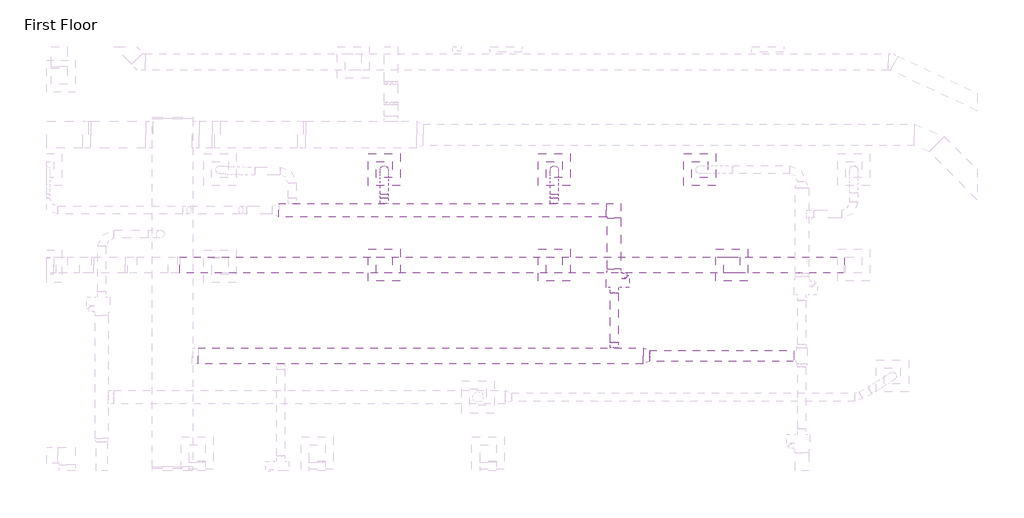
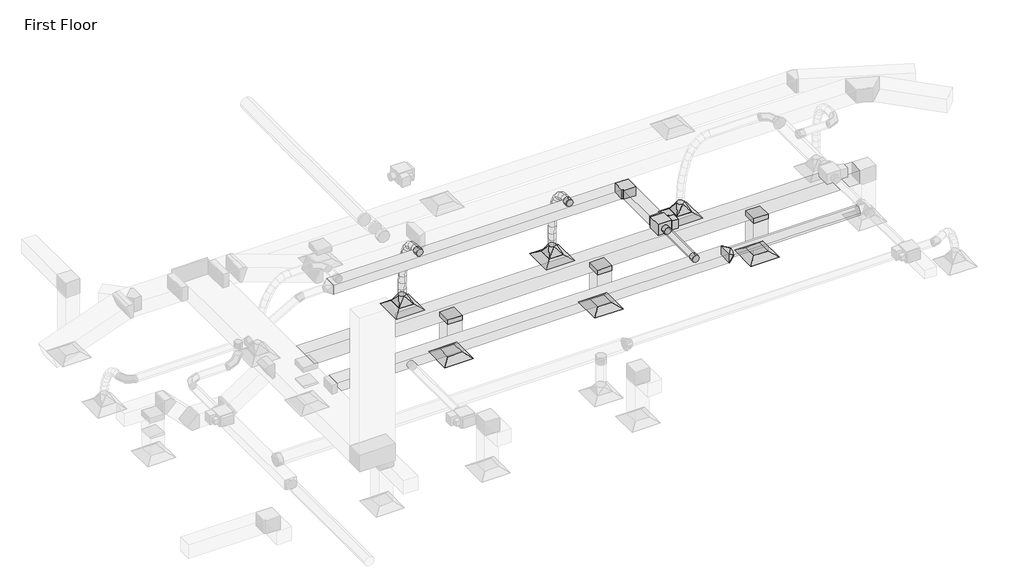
# One storey, part 49 of 61: 13 duct segments, 11 duct fittings, 6 air terminals, 1 proxy.
"""IFC4 building model written with IfcOpenShell, lengths in millimetres."""

from ifc_helpers import new_model, si_unit, point, frame, frame_2d, origin, place, context, project, spatial, polyline, circle_curve, ellipse_curve, trimmed, segment, composite_curve, outline, extrude, transform, mapped, element, save
from ifc_brep_helpers import plane_surface, cylinder_surface, advanced_brep
from components import m_exhaust_grill_er_600_x_600_face_300_x_300_connection_ff221211, m_vav_unit_single_duct_150_mm_ffdab17b, m_rectangular_elbow_mitered_standard_b734d3a4, m_rectangular_takeoff_standard_c00386d1, m_rectangular_to_round_transition_angle_45_degree_8f201c83, m_rectangular_to_round_transition_angle_45_degree_7e9c3f7e, m_round_takeoff_standard_d02f3bf7, m_round_takeoff_standard_2721f8a4

model = new_model("IFC4")

# Units and contexts
model_context = context("Model", 3, world=origin())
ifc_project = project(units=[si_unit("LENGTHUNIT", "METRE", prefix="MILLI")], contexts=[model_context])

# Site, building, storey
site = spatial("IfcSite", under=ifc_project)
building = spatial("IfcBuilding", under=site)
storey = spatial("IfcBuildingStorey", under=building, Name="First Floor", Elevation=0.0)

# Air terminals
placement = place(None, origin())
m_exhaust_grill_er_600_x_600_face_300_x_300_connection_shape = m_exhaust_grill_er_600_x_600_face_300_x_300_connection_ff221211(model_context)
element("IfcAirTerminal", 1, ObjectType="M_Return Register : RR-600 x 600 Face 300 x 300 Connection", at=placement, inside=storey, context=model_context, shape_type="MappedRepresentation", body=[
    mapped(m_exhaust_grill_er_600_x_600_face_300_x_300_connection_shape, transform((-31045.6775238, 41867.8999759, 2680.0), x_axis=(1.0, 0.0, 0.0), y_axis=(0.0, 1.0, 0.0), z_axis=(0.0, 0.0, 1.0))),
])
element("IfcAirTerminal", 2, ObjectType="M_Return Register : RR-600 x 600 Face 300 x 300 Connection", at=placement, inside=storey, context=model_context, shape_type="MappedRepresentation", body=[
    mapped(m_exhaust_grill_er_600_x_600_face_300_x_300_connection_shape, transform((-27873.190801, 41867.8999759, 2680.0), x_axis=(1.0, 0.0, 0.0), y_axis=(0.0, 1.0, 0.0), z_axis=(0.0, 0.0, 1.0))),
])
element("IfcAirTerminal", 3, ObjectType="M_Return Register : RR-600 x 600 Face 300 x 300 Connection", at=placement, inside=storey, context=model_context, shape_type="MappedRepresentation", body=[
    mapped(m_exhaust_grill_er_600_x_600_face_300_x_300_connection_shape, transform((-24565.7834444, 41867.8999759, 2680.0), x_axis=(1.0, 0.0, 0.0), y_axis=(0.0, 1.0, 0.0), z_axis=(0.0, 0.0, 1.0))),
])
element("IfcAirTerminal", 4, ObjectType="M_Supply Diffuser : SD-600 x 600 Face 300 x 300 Connection", at=placement, inside=storey, context=model_context, shape_type="MappedRepresentation", body=[
    mapped(m_exhaust_grill_er_600_x_600_face_300_x_300_connection_shape, transform((-25158.2437299, 43646.5953777, 2680.0), x_axis=(1.0, 0.0, 0.0), y_axis=(0.0, 1.0, 0.0), z_axis=(0.0, 0.0, 1.0))),
])
element("IfcAirTerminal", 5, ObjectType="M_Supply Diffuser : SD-600 x 600 Face 300 x 300 Connection", at=placement, inside=storey, context=model_context, shape_type="MappedRepresentation", body=[
    mapped(m_exhaust_grill_er_600_x_600_face_300_x_300_connection_shape, transform((-27873.190801, 43646.5953777, 2680.0), x_axis=(1.0, 0.0, 0.0), y_axis=(0.0, 1.0, 0.0), z_axis=(0.0, 0.0, 1.0))),
])
element("IfcAirTerminal", 6, ObjectType="M_Supply Diffuser : SD-600 x 600 Face 300 x 300 Connection", at=placement, inside=storey, context=model_context, shape_type="MappedRepresentation", body=[
    mapped(m_exhaust_grill_er_600_x_600_face_300_x_300_connection_shape, transform((-31045.6775238, 43646.5953777, 2680.0), x_axis=(1.0, 0.0, 0.0), y_axis=(0.0, 1.0, 0.0), z_axis=(0.0, 0.0, 1.0))),
])

# Proxy
m_vav_unit_single_duct_150_mm_shape = m_vav_unit_single_duct_150_mm_ffdab17b(model_context)
element("IfcBuildingElementProxy", 7, Name="M_VAV Unit - Single Duct : 150 mm", ObjectType="M_VAV Unit - Single Duct : 150 mm", at=placement, inside=storey, context=model_context, shape_type="MappedRepresentation", body=[
    mapped(m_vav_unit_single_duct_150_mm_shape, transform((-26756.73495, 41449.1406836, 4159.975), x_axis=(0.0, 1.0000000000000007, 0.0), y_axis=(-1.0000000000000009, 0.0, 0.0), z_axis=(0.0, 0.0, 1.0000000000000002))),
])

# Duct fittings
m_rectangular_elbow_mitered_standard_shape = m_rectangular_elbow_mitered_standard_b734d3a4(model_context)
element("IfcDuctFitting", 8, ObjectType="M_Rectangular Elbow - Mitered : Standard", at=placement, inside=storey, context=model_context, shape_type="MappedRepresentation", body=[
    mapped(m_rectangular_elbow_mitered_standard_shape, transform((-26756.73495, 42891.9406833, 4279.0), x_axis=(0.0, 0.9999999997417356, -2.272727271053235e-05), y_axis=(-1.0, 0.0, 0.0), z_axis=(0.0, 2.272727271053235e-05, 0.9999999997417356))),
])
m_rectangular_takeoff_standard_shape = m_rectangular_takeoff_standard_c00386d1(model_context)
element("IfcDuctFitting", 9, ObjectType="M_Rectangular Takeoff : Standard", at=placement, inside=storey, context=model_context, shape_type="MappedRepresentation", body=[
    mapped(m_rectangular_takeoff_standard_shape, transform((-24565.7834444, 41867.8999759, 3600.0), x_axis=(0.0, 0.0, -1.0), y_axis=(0.0, 1.0, 0.0), z_axis=(1.0, 0.0, 0.0))),
])
element("IfcDuctFitting", 10, ObjectType="M_Rectangular Takeoff : Standard", at=placement, inside=storey, context=model_context, shape_type="MappedRepresentation", body=[
    mapped(m_rectangular_takeoff_standard_shape, transform((-27873.190801, 41867.8999759, 3600.0), x_axis=(0.0, 0.0, -1.0), y_axis=(0.0, 1.0, 0.0), z_axis=(1.0, 0.0, 0.0))),
])
element("IfcDuctFitting", 11, ObjectType="M_Rectangular Takeoff : Standard", at=placement, inside=storey, context=model_context, shape_type="MappedRepresentation", body=[
    mapped(m_rectangular_takeoff_standard_shape, transform((-31045.6775238, 41867.8999759, 3600.0), x_axis=(0.0, 0.0, -1.0), y_axis=(0.0, 1.0, 0.0), z_axis=(1.0, 0.0, 0.0))),
])
m_rectangular_to_round_transition_angle_45_degree_shape = m_rectangular_to_round_transition_angle_45_degree_8f201c83(model_context)
element("IfcDuctFitting", 12, ObjectType="M_Rectangular to Round Transition - Angle : 45 Degree", at=placement, inside=storey, context=model_context, shape_type="MappedRepresentation", body=[
    mapped(m_rectangular_to_round_transition_angle_45_degree_shape, transform((-25158.2437299, 43646.5953777, 2781.6), x_axis=(0.0, 0.0, 1.0), y_axis=(1.0, 0.0, 0.0), z_axis=(0.0, 1.0, 0.0))),
])
element("IfcDuctFitting", 13, ObjectType="M_Rectangular to Round Transition - Angle : 45 Degree", at=placement, inside=storey, context=model_context, shape_type="MappedRepresentation", body=[
    mapped(m_rectangular_to_round_transition_angle_45_degree_shape, transform((-31045.6775238, 43646.5953777, 2781.6), x_axis=(0.0, 0.0, 1.0), y_axis=(1.0, 0.0, 0.0), z_axis=(0.0, 1.0, 0.0))),
])
element("IfcDuctFitting", 14, ObjectType="M_Rectangular to Round Transition - Angle : 45 Degree", at=placement, inside=storey, context=model_context, shape_type="MappedRepresentation", body=[
    mapped(m_rectangular_to_round_transition_angle_45_degree_shape, transform((-27873.190801, 43646.5953777, 2781.6), x_axis=(0.0, 0.0, 1.0), y_axis=(1.0, 0.0, 0.0), z_axis=(0.0, 1.0, 0.0))),
])
m_rectangular_to_round_transition_angle_45_degree_2_shape = m_rectangular_to_round_transition_angle_45_degree_7e9c3f7e(model_context)
element("IfcDuctFitting", 15, ObjectType="M_Rectangular to Round Transition - Angle : 45 Degree", at=placement, inside=storey, context=model_context, shape_type="MappedRepresentation", body=[
    mapped(m_rectangular_to_round_transition_angle_45_degree_2_shape, transform((-26216.1904063, 40172.9559427, 4269.5), x_axis=(1.0, 0.0, 0.0), y_axis=(0.0, 1.0, 0.0), z_axis=(0.0, 0.0, 1.0))),
])
m_round_takeoff_standard_shape = m_round_takeoff_standard_d02f3bf7(model_context)
element("IfcDuctFitting", 16, ObjectType="M_Round Takeoff : Standard", at=placement, inside=storey, context=model_context, shape_type="MappedRepresentation", body=[
    mapped(m_round_takeoff_standard_shape, transform((-31045.6775238, 43016.9406833, 4279.0), x_axis=(0.0, 1.0, 0.0), y_axis=(1.0, 0.0, 0.0), z_axis=(0.0, 0.0, -1.0))),
])
element("IfcDuctFitting", 17, ObjectType="M_Round Takeoff : Standard", at=placement, inside=storey, context=model_context, shape_type="MappedRepresentation", body=[
    mapped(m_round_takeoff_standard_shape, transform((-27873.190801, 43016.9406833, 4279.0), x_axis=(0.0, 1.0, 0.0), y_axis=(1.0, 0.0, 0.0), z_axis=(0.0, 0.0, -1.0))),
])
m_round_takeoff_standard_2_shape = m_round_takeoff_standard_2721f8a4(model_context)
element("IfcDuctFitting", 18, ObjectType="M_Round Takeoff : Standard", at=placement, inside=storey, context=model_context, shape_type="MappedRepresentation", body=[
    mapped(m_round_takeoff_standard_2_shape, transform((-26757.58495, 40322.9559427, 4269.5), x_axis=(0.0, 1.0, 0.0), y_axis=(1.0, 0.0, 0.0), z_axis=(0.0, 0.0, -1.0))),
])

# Duct segments
element("IfcDuctSegment", 19, ObjectType="Flex - Round", at=placement, inside=storey, context=model_context, shape_type="AdvancedBrep", body=[
    advanced_brep(
    [(-31120.6775238, 43191.9406833, 4279.0), (-31045.6775238, 43178.9924101, 4205.1261736), (-30970.6775238, 43191.9406833, 4279.0), (-31045.6775238, 43204.8889565, 4352.8738264), (-31120.6775238, 43307.1610372, 4258.8046928), (-31045.6775238, 43280.3523448, 4187.3602586), (-30970.6775238, 43307.1610372, 4258.8046928), (-31045.6775238, 43333.9697296, 4330.249127), (-31120.6775238, 43646.5953777, 2962.6660172), (-31045.6775238, 43721.5953451, 2962.7359465), (-30970.6775238, 43646.5953777, 2962.6660172), (-31045.6775238, 43571.5954103, 2962.5960879), (-31120.6775238, 43401.067368, 4201.9453767), (-31045.6775238, 43351.8129835, 4144.0915779), (-30970.6775238, 43401.067368, 4201.9453767), (-31045.6775238, 43450.3217525, 4259.7991755), (-31120.6775238, 43475.8384761, 4114.0119602), (-31045.6775238, 43413.0097324, 4072.1220786), (-30970.6775238, 43475.8384761, 4114.0119602), (-31045.6775238, 43538.6672197, 4155.9018417), (-31120.6775238, 43533.6531619, 4000.5943515), (-31045.6775238, 43464.1176047, 3971.8615206), (-30970.6775238, 43533.6531619, 4000.5943515), (-31045.6775238, 43603.1887191, 4029.3271824), (-31120.6775238, 43576.6902259, 3867.2824592), (-31045.6775238, 43504.0612132, 3848.1319363), (-30970.6775238, 43576.6902259, 3867.2824592), (-31045.6775238, 43649.3192386, 3886.4329821), (-31120.6775238, 43607.1284686, 3719.6661916), (-31045.6775238, 43533.098013, 3707.3122428), (-30970.6775238, 43607.1284686, 3719.6661916), (-31045.6775238, 43681.1589242, 3732.0201403), (-31120.6775238, 43627.1466904, 3563.335457), (-31045.6775238, 43552.4985972, 3555.8049008), (-30970.6775238, 43627.1466904, 3563.335457), (-31045.6775238, 43701.7947836, 3570.8660131), (-31120.6775238, 43638.9236918, 3403.8801639), (-31045.6775238, 43564.0242722, 3399.7524532), (-30970.6775238, 43638.9236918, 3403.8801639), (-31045.6775238, 43713.8231113, 3408.0078745), (-31120.6775238, 43644.6382731, 3246.8902206), (-31045.6775238, 43569.6550464, 3245.0648442), (-30970.6775238, 43644.6382731, 3246.8902206), (-31045.6775238, 43719.6214998, 3248.715597), (-31120.6775238, 43646.4692349, 3097.9555356), (-31045.6775238, 43571.4696648, 3097.4595752), (-30970.6775238, 43646.4692349, 3097.9555356), (-31045.6775238, 43721.4688051, 3098.451496)],
    [
        (0, 1, circle_curve(frame((-31045.6775238, 43191.9406833, 4279.0), z_axis=(0.0, -0.9849843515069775, 0.17264364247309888), x_axis=(-1.0, 0.0, 0.0)), 75.0)),
        (1, 2, circle_curve(frame((-31045.6775238, 43191.9406833, 4279.0), z_axis=(0.0, -0.9849843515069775, 0.17264364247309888), x_axis=(-1.0, 0.0, 0.0)), 75.0)),
        (2, 3, circle_curve(frame((-31045.6775238, 43191.9406833, 4279.0), z_axis=(0.0, -0.9849843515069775, 0.17264364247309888), x_axis=(-1.0, 0.0, 0.0)), 75.0)),
        (3, 0, circle_curve(frame((-31045.6775238, 43191.9406833, 4279.0), z_axis=(0.0, -0.9849843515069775, 0.17264364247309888), x_axis=(-1.0, 0.0, 0.0)), 75.0)),
        (0, 4),
        (4, 5, ellipse_curve(frame((-31045.6775238, 43307.1610372, 4258.8046928), z_axis=(0.0, -0.936255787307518, 0.351319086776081), x_axis=(0.0, -0.3513190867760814, -0.9362557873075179)), 76.3086703, 75.0)),
        (5, 1),
        (5, 6, ellipse_curve(frame((-31045.6775238, 43307.1610372, 4258.8046928), z_axis=(0.0, -0.936255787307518, 0.351319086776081), x_axis=(0.0, -0.3513190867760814, -0.9362557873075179)), 76.3086703, 75.0)),
        (6, 2),
        (6, 7, ellipse_curve(frame((-31045.6775238, 43307.1610372, 4258.8046928), z_axis=(0.0, -0.936255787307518, 0.351319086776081), x_axis=(0.0, -0.3513190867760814, -0.9362557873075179)), 76.3086703, 75.0)),
        (7, 3),
        (7, 4, ellipse_curve(frame((-31045.6775238, 43307.1610372, 4258.8046928), z_axis=(0.0, -0.936255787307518, 0.351319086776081), x_axis=(0.0, -0.3513190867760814, -0.9362557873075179)), 76.3086703, 75.0)),
        (8, 9, circle_curve(frame((-31045.6775238, 43646.5953777, 2962.6660172), z_axis=(0.0, 0.0009323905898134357, -0.9999995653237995), x_axis=(-1.0, 0.0, 0.0)), 75.0)),
        (9, 10, circle_curve(frame((-31045.6775238, 43646.5953777, 2962.6660172), z_axis=(0.0, 0.0009323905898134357, -0.9999995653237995), x_axis=(-1.0, 0.0, 0.0)), 75.0)),
        (10, 11, circle_curve(frame((-31045.6775238, 43646.5953777, 2962.6660172), z_axis=(0.0, 0.0009323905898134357, -0.9999995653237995), x_axis=(-1.0, 0.0, 0.0)), 75.0)),
        (11, 8, circle_curve(frame((-31045.6775238, 43646.5953777, 2962.6660172), z_axis=(0.0, 0.0009323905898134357, -0.9999995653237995), x_axis=(-1.0, 0.0, 0.0)), 75.0)),
        (4, 12),
        (12, 13, ellipse_curve(frame((-31045.6775238, 43401.067368, 4201.9453767), z_axis=(0.0, -0.7614282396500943, 0.6482492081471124), x_axis=(0.0, -0.648249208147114, -0.761428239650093)), 75.9806319, 75.0)),
        (13, 5),
        (13, 14, ellipse_curve(frame((-31045.6775238, 43401.067368, 4201.9453767), z_axis=(0.0, -0.7614282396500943, 0.6482492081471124), x_axis=(0.0, -0.648249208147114, -0.761428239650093)), 75.9806319, 75.0)),
        (14, 6),
        (14, 15, ellipse_curve(frame((-31045.6775238, 43401.067368, 4201.9453767), z_axis=(0.0, -0.7614282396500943, 0.6482492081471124), x_axis=(0.0, -0.648249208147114, -0.761428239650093)), 75.9806319, 75.0)),
        (15, 7),
        (15, 12, ellipse_curve(frame((-31045.6775238, 43401.067368, 4201.9453767), z_axis=(0.0, -0.7614282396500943, 0.6482492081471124), x_axis=(0.0, -0.648249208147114, -0.761428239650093)), 75.9806319, 75.0)),
        (12, 16),
        (16, 17, ellipse_curve(frame((-31045.6775238, 43475.8384761, 4114.0119602), z_axis=(0.0, -0.5547373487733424, 0.8320255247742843), x_axis=(0.0, -0.832025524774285, -0.5547373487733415)), 75.5130003, 75.0)),
        (17, 13),
        (17, 18, ellipse_curve(frame((-31045.6775238, 43475.8384761, 4114.0119602), z_axis=(0.0, -0.5547373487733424, 0.8320255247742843), x_axis=(0.0, -0.832025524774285, -0.5547373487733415)), 75.5130003, 75.0)),
        (18, 14),
        (18, 19, ellipse_curve(frame((-31045.6775238, 43475.8384761, 4114.0119602), z_axis=(0.0, -0.5547373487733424, 0.8320255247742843), x_axis=(0.0, -0.832025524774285, -0.5547373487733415)), 75.5130003, 75.0)),
        (19, 15),
        (19, 16, ellipse_curve(frame((-31045.6775238, 43475.8384761, 4114.0119602), z_axis=(0.0, -0.5547373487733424, 0.8320255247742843), x_axis=(0.0, -0.832025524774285, -0.5547373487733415)), 75.5130003, 75.0)),
        (16, 20),
        (20, 21, ellipse_curve(frame((-31045.6775238, 43533.6531619, 4000.5943515), z_axis=(0.0, -0.38189211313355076, 0.9242069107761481), x_axis=(0.0, -0.9242069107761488, -0.3818921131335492)), 75.238084, 75.0)),
        (21, 17),
        (21, 22, ellipse_curve(frame((-31045.6775238, 43533.6531619, 4000.5943515), z_axis=(0.0, -0.38189211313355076, 0.9242069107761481), x_axis=(0.0, -0.9242069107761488, -0.3818921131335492)), 75.238084, 75.0)),
        (22, 18),
        (22, 23, ellipse_curve(frame((-31045.6775238, 43533.6531619, 4000.5943515), z_axis=(0.0, -0.38189211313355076, 0.9242069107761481), x_axis=(0.0, -0.9242069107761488, -0.3818921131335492)), 75.238084, 75.0)),
        (23, 19),
        (23, 20, ellipse_curve(frame((-31045.6775238, 43533.6531619, 4000.5943515), z_axis=(0.0, -0.38189211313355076, 0.9242069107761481), x_axis=(0.0, -0.9242069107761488, -0.3818921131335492)), 75.238084, 75.0)),
        (20, 24),
        (24, 25, ellipse_curve(frame((-31045.6775238, 43576.6902259, 3867.2824592), z_axis=(0.0, -0.2549617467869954, 0.9669511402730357), x_axis=(0.0, -0.9669511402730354, -0.25496174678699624)), 75.1113574, 75.0)),
        (25, 21),
        (25, 26, ellipse_curve(frame((-31045.6775238, 43576.6902259, 3867.2824592), z_axis=(0.0, -0.2549617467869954, 0.9669511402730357), x_axis=(0.0, -0.9669511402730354, -0.25496174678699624)), 75.1113574, 75.0)),
        (26, 22),
        (26, 27, ellipse_curve(frame((-31045.6775238, 43576.6902259, 3867.2824592), z_axis=(0.0, -0.2549617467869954, 0.9669511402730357), x_axis=(0.0, -0.9669511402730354, -0.25496174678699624)), 75.1113574, 75.0)),
        (27, 23),
        (27, 24, ellipse_curve(frame((-31045.6775238, 43576.6902259, 3867.2824592), z_axis=(0.0, -0.2549617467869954, 0.9669511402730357), x_axis=(0.0, -0.9669511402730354, -0.25496174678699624)), 75.1113574, 75.0)),
        (24, 28),
        (28, 29, ellipse_curve(frame((-31045.6775238, 43607.1284686, 3719.6661916), z_axis=(0.0, -0.16460043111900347, 0.9863603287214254), x_axis=(0.0, -0.9863603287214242, -0.1646004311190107)), 75.0541698, 75.0)),
        (29, 25),
        (29, 30, ellipse_curve(frame((-31045.6775238, 43607.1284686, 3719.6661916), z_axis=(0.0, -0.16460043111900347, 0.9863603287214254), x_axis=(0.0, -0.9863603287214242, -0.1646004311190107)), 75.0541698, 75.0)),
        (30, 26),
        (30, 31, ellipse_curve(frame((-31045.6775238, 43607.1284686, 3719.6661916), z_axis=(0.0, -0.16460043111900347, 0.9863603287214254), x_axis=(0.0, -0.9863603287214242, -0.1646004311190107)), 75.0541698, 75.0)),
        (31, 27),
        (31, 28, ellipse_curve(frame((-31045.6775238, 43607.1284686, 3719.6661916), z_axis=(0.0, -0.16460043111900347, 0.9863603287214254), x_axis=(0.0, -0.9863603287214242, -0.1646004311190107)), 75.0541698, 75.0)),
        (28, 32),
        (32, 33, ellipse_curve(frame((-31045.6775238, 43627.1466904, 3563.335457), z_axis=(0.0, -0.10037131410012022, 0.9949500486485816), x_axis=(0.0, -0.9949500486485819, -0.10037131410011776)), 75.0269758, 75.0)),
        (33, 29),
        (33, 34, ellipse_curve(frame((-31045.6775238, 43627.1466904, 3563.335457), z_axis=(0.0, -0.10037131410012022, 0.9949500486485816), x_axis=(0.0, -0.9949500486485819, -0.10037131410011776)), 75.0269758, 75.0)),
        (34, 30),
        (34, 35, ellipse_curve(frame((-31045.6775238, 43627.1466904, 3563.335457), z_axis=(0.0, -0.10037131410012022, 0.9949500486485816), x_axis=(0.0, -0.9949500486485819, -0.10037131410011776)), 75.0269758, 75.0)),
        (35, 31),
        (35, 32, ellipse_curve(frame((-31045.6775238, 43627.1466904, 3563.335457), z_axis=(0.0, -0.10037131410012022, 0.9949500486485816), x_axis=(0.0, -0.9949500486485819, -0.10037131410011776)), 75.0269758, 75.0)),
        (32, 36),
        (36, 37, ellipse_curve(frame((-31045.6775238, 43638.9236918, 3403.8801639), z_axis=(0.0, -0.05502655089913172, 0.9984848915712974), x_axis=(-1.4123977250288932e-12, -0.9984848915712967, -0.05502655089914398)), 75.0130725, 75.0)),
        (37, 33),
        (37, 38, ellipse_curve(frame((-31045.6775238, 43638.9236918, 3403.8801639), z_axis=(0.0, -0.05502655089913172, 0.9984848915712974), x_axis=(-1.4123977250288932e-12, -0.9984848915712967, -0.05502655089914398)), 75.0130725, 75.0)),
        (38, 34),
        (38, 39, ellipse_curve(frame((-31045.6775238, 43638.9236918, 3403.8801639), z_axis=(0.0, -0.05502655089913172, 0.9984848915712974), x_axis=(-1.4123977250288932e-12, -0.9984848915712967, -0.05502655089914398)), 75.0130725, 75.0)),
        (39, 35),
        (39, 36, ellipse_curve(frame((-31045.6775238, 43638.9236918, 3403.8801639), z_axis=(0.0, -0.05502655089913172, 0.9984848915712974), x_axis=(-1.4123977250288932e-12, -0.9984848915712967, -0.05502655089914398)), 75.0130725, 75.0)),
        (36, 40),
        (40, 41, ellipse_curve(frame((-31045.6775238, 43644.6382731, 3246.8902206), z_axis=(0.0, -0.02433658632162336, 0.99970382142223), x_axis=(0.0, -0.9997038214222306, -0.024336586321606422)), 75.0054417, 75.0)),
        (41, 37),
        (41, 42, ellipse_curve(frame((-31045.6775238, 43644.6382731, 3246.8902206), z_axis=(0.0, -0.02433658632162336, 0.99970382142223), x_axis=(0.0, -0.9997038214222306, -0.024336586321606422)), 75.0054417, 75.0)),
        (42, 38),
        (42, 43, ellipse_curve(frame((-31045.6775238, 43644.6382731, 3246.8902206), z_axis=(0.0, -0.02433658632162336, 0.99970382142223), x_axis=(0.0, -0.9997038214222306, -0.024336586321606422)), 75.0054417, 75.0)),
        (43, 39),
        (43, 40, ellipse_curve(frame((-31045.6775238, 43644.6382731, 3246.8902206), z_axis=(0.0, -0.02433658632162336, 0.99970382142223), x_axis=(0.0, -0.9997038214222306, -0.024336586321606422)), 75.0054417, 75.0)),
        (40, 44),
        (44, 45, ellipse_curve(frame((-31045.6775238, 43646.4692349, 3097.9555356), z_axis=(0.0, -0.006612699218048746, 0.9999781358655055), x_axis=(-4.861177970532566e-12, -0.9999781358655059, -0.006612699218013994)), 75.00121, 75.0)),
        (45, 41),
        (45, 46, ellipse_curve(frame((-31045.6775238, 43646.4692349, 3097.9555356), z_axis=(0.0, -0.006612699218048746, 0.9999781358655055), x_axis=(-4.861177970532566e-12, -0.9999781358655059, -0.006612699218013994)), 75.00121, 75.0)),
        (46, 42),
        (46, 47, ellipse_curve(frame((-31045.6775238, 43646.4692349, 3097.9555356), z_axis=(0.0, -0.006612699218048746, 0.9999781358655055), x_axis=(-4.861177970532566e-12, -0.9999781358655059, -0.006612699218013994)), 75.00121, 75.0)),
        (47, 43),
        (47, 44, ellipse_curve(frame((-31045.6775238, 43646.4692349, 3097.9555356), z_axis=(0.0, -0.006612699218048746, 0.9999781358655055), x_axis=(-4.861177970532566e-12, -0.9999781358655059, -0.006612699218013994)), 75.00121, 75.0)),
        (44, 8),
        (11, 45),
        (10, 46),
        (9, 47),
    ],
    [
        plane_surface(frame((-31045.6775238, 43204.8889565, 4352.8738264), z_axis=(0.0, -0.9849843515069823, 0.172643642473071), x_axis=(1.0, 0.0, 0.0))),
        cylinder_surface(frame((-31045.6775238, 43191.9406833, 4279.0), z_axis=(0.0, -0.9849843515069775, 0.17264364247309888), x_axis=(-1.0, 0.0, 0.0)), 75.0),
        plane_surface(frame((-31045.6775238, 43571.5954103, 2962.5960879), z_axis=(0.0, 0.0009323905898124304, -0.9999995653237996), x_axis=(-1.0, 0.0, 0.0))),
        cylinder_surface(frame((-31045.6775238, 43307.1610372, 4258.8046928), z_axis=(0.0, -0.8554142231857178, 0.5179445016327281), x_axis=(-1.0, 0.0, 0.0)), 75.0),
        cylinder_surface(frame((-31045.6775238, 43401.067368, 4201.9453767), z_axis=(0.0, -0.6477877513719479, 0.7618208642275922), x_axis=(-1.0, 0.0, 0.0)), 75.0),
        cylinder_surface(frame((-31045.6775238, 43475.8384761, 4114.0119602), z_axis=(0.0, -0.4541496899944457, 0.8909253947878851), x_axis=(-1.0, 0.0, 0.0)), 75.0),
        cylinder_surface(frame((-31045.6775238, 43533.6531619, 4000.5943515), z_axis=(0.0, -0.3072176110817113, 0.9516392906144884), x_axis=(-1.0, 0.0, 0.0)), 75.0),
        cylinder_surface(frame((-31045.6775238, 43576.6902259, 3867.2824592), z_axis=(0.0, -0.20194988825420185, 0.9793958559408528), x_axis=(-1.0, 0.0, 0.0)), 75.0),
        cylinder_surface(frame((-31045.6775238, 43607.1284686, 3719.6661916), z_axis=(0.0, -0.1270133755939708, 0.991901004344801), x_axis=(-1.0, 0.0, 0.0)), 75.0),
        cylinder_surface(frame((-31045.6775238, 43627.1466904, 3563.335457), z_axis=(0.0, -0.07365707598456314, 0.9972836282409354), x_axis=(-1.0, 0.0, 0.0)), 75.0),
        cylinder_surface(frame((-31045.6775238, 43638.9236918, 3403.8801639), z_axis=(0.0, -0.036376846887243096, 0.9993381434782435), x_axis=(-1.0, 0.0, 0.0)), 75.0),
        cylinder_surface(frame((-31045.6775238, 43644.6382731, 3246.8902206), z_axis=(0.0, -0.012292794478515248, 0.9999244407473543), x_axis=(-1.0, 0.0, 0.0)), 75.0),
        cylinder_surface(frame((-31045.6775238, 43646.4692349, 3097.9555356), z_axis=(0.0, -0.0009323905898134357, 0.9999995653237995), x_axis=(-1.0, 0.0, 0.0)), 75.0),
    ],
    [
        (0, [[1, 2, 3, 4]]),
        (1, [[-1, 5, 6, 7]]),
        (1, [[-2, -7, 8, 9]]),
        (1, [[-3, -9, 10, 11]]),
        (1, [[-4, -11, 12, -5]]),
        (2, [[13, 14, 15, 16]]),
        (3, [[-6, 17, 18, 19]]),
        (3, [[-8, -19, 20, 21]]),
        (3, [[-10, -21, 22, 23]]),
        (3, [[-12, -23, 24, -17]]),
        (4, [[-18, 25, 26, 27]]),
        (4, [[-20, -27, 28, 29]]),
        (4, [[-22, -29, 30, 31]]),
        (4, [[-24, -31, 32, -25]]),
        (5, [[-26, 33, 34, 35]]),
        (5, [[-28, -35, 36, 37]]),
        (5, [[-30, -37, 38, 39]]),
        (5, [[-32, -39, 40, -33]]),
        (6, [[-34, 41, 42, 43]]),
        (6, [[-36, -43, 44, 45]]),
        (6, [[-38, -45, 46, 47]]),
        (6, [[-40, -47, 48, -41]]),
        (7, [[-42, 49, 50, 51]]),
        (7, [[-44, -51, 52, 53]]),
        (7, [[-46, -53, 54, 55]]),
        (7, [[-48, -55, 56, -49]]),
        (8, [[-50, 57, 58, 59]]),
        (8, [[-52, -59, 60, 61]]),
        (8, [[-54, -61, 62, 63]]),
        (8, [[-56, -63, 64, -57]]),
        (9, [[-58, 65, 66, 67]]),
        (9, [[-60, -67, 68, 69]]),
        (9, [[-62, -69, 70, 71]]),
        (9, [[-64, -71, 72, -65]]),
        (10, [[-66, 73, 74, 75]]),
        (10, [[-68, -75, 76, 77]]),
        (10, [[-70, -77, 78, 79]]),
        (10, [[-72, -79, 80, -73]]),
        (11, [[-74, 81, 82, 83]]),
        (11, [[-76, -83, 84, 85]]),
        (11, [[-78, -85, 86, 87]]),
        (11, [[-80, -87, 88, -81]]),
        (12, [[-82, 89, -16, 90]]),
        (12, [[-84, -90, -15, 91]]),
        (12, [[-86, -91, -14, 92]]),
        (12, [[-88, -92, -13, -89]]),
    ],
),
])
element("IfcDuctSegment", 20, ObjectType="Flex - Round", at=placement, inside=storey, context=model_context, shape_type="AdvancedBrep", body=[
    advanced_brep(
    [(-27948.190801, 43191.9406833, 4279.0), (-27873.190801, 43178.9924101, 4205.1261736), (-27798.190801, 43191.9406833, 4279.0), (-27873.190801, 43204.8889565, 4352.8738264), (-27948.190801, 43307.1610372, 4258.8046928), (-27873.190801, 43280.3523448, 4187.3602586), (-27798.190801, 43307.1610372, 4258.8046928), (-27873.190801, 43333.9697296, 4330.249127), (-27948.190801, 43646.5953777, 2962.6660172), (-27873.190801, 43721.5953451, 2962.7359465), (-27798.190801, 43646.5953777, 2962.6660172), (-27873.190801, 43571.5954103, 2962.5960879), (-27948.190801, 43401.067368, 4201.9453767), (-27873.190801, 43351.8129835, 4144.0915779), (-27798.190801, 43401.067368, 4201.9453767), (-27873.190801, 43450.3217525, 4259.7991755), (-27948.190801, 43475.8384761, 4114.0119602), (-27873.190801, 43413.0097324, 4072.1220786), (-27798.190801, 43475.8384761, 4114.0119602), (-27873.190801, 43538.6672197, 4155.9018417), (-27948.190801, 43533.6531619, 4000.5943515), (-27873.190801, 43464.1176047, 3971.8615206), (-27798.190801, 43533.6531619, 4000.5943515), (-27873.190801, 43603.1887191, 4029.3271824), (-27948.190801, 43576.6902259, 3867.2824592), (-27873.190801, 43504.0612132, 3848.1319363), (-27798.190801, 43576.6902259, 3867.2824592), (-27873.190801, 43649.3192386, 3886.4329821), (-27948.190801, 43607.1284686, 3719.6661916), (-27873.190801, 43533.098013, 3707.3122428), (-27798.190801, 43607.1284686, 3719.6661916), (-27873.190801, 43681.1589242, 3732.0201403), (-27948.190801, 43627.1466904, 3563.335457), (-27873.190801, 43552.4985972, 3555.8049008), (-27798.190801, 43627.1466904, 3563.335457), (-27873.190801, 43701.7947836, 3570.8660131), (-27948.190801, 43638.9236918, 3403.8801639), (-27873.190801, 43564.0242722, 3399.7524532), (-27798.190801, 43638.9236918, 3403.8801639), (-27873.190801, 43713.8231113, 3408.0078745), (-27948.190801, 43644.6382731, 3246.8902206), (-27873.190801, 43569.6550464, 3245.0648442), (-27798.190801, 43644.6382731, 3246.8902206), (-27873.190801, 43719.6214998, 3248.715597), (-27948.190801, 43646.4692349, 3097.9555356), (-27873.190801, 43571.4696648, 3097.4595752), (-27798.190801, 43646.4692349, 3097.9555356), (-27873.190801, 43721.4688051, 3098.451496)],
    [
        (0, 1, circle_curve(frame((-27873.190801, 43191.9406833, 4279.0), z_axis=(0.0, -0.9849843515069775, 0.17264364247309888), x_axis=(-1.0, 0.0, 0.0)), 75.0)),
        (1, 2, circle_curve(frame((-27873.190801, 43191.9406833, 4279.0), z_axis=(0.0, -0.9849843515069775, 0.17264364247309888), x_axis=(-1.0, 0.0, 0.0)), 75.0)),
        (2, 3, circle_curve(frame((-27873.190801, 43191.9406833, 4279.0), z_axis=(0.0, -0.9849843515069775, 0.17264364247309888), x_axis=(-1.0, 0.0, 0.0)), 75.0)),
        (3, 0, circle_curve(frame((-27873.190801, 43191.9406833, 4279.0), z_axis=(0.0, -0.9849843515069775, 0.17264364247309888), x_axis=(-1.0, 0.0, 0.0)), 75.0)),
        (0, 4),
        (4, 5, ellipse_curve(frame((-27873.190801, 43307.1610372, 4258.8046928), z_axis=(0.0, -0.936255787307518, 0.351319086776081), x_axis=(0.0, -0.3513190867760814, -0.9362557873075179)), 76.3086703, 75.0)),
        (5, 1),
        (5, 6, ellipse_curve(frame((-27873.190801, 43307.1610372, 4258.8046928), z_axis=(0.0, -0.936255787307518, 0.351319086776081), x_axis=(0.0, -0.3513190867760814, -0.9362557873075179)), 76.3086703, 75.0)),
        (6, 2),
        (6, 7, ellipse_curve(frame((-27873.190801, 43307.1610372, 4258.8046928), z_axis=(0.0, -0.936255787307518, 0.351319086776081), x_axis=(0.0, -0.3513190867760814, -0.9362557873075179)), 76.3086703, 75.0)),
        (7, 3),
        (7, 4, ellipse_curve(frame((-27873.190801, 43307.1610372, 4258.8046928), z_axis=(0.0, -0.936255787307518, 0.351319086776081), x_axis=(0.0, -0.3513190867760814, -0.9362557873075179)), 76.3086703, 75.0)),
        (8, 9, circle_curve(frame((-27873.190801, 43646.5953777, 2962.6660172), z_axis=(0.0, 0.0009323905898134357, -0.9999995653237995), x_axis=(-1.0, 0.0, 0.0)), 75.0)),
        (9, 10, circle_curve(frame((-27873.190801, 43646.5953777, 2962.6660172), z_axis=(0.0, 0.0009323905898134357, -0.9999995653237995), x_axis=(-1.0, 0.0, 0.0)), 75.0)),
        (10, 11, circle_curve(frame((-27873.190801, 43646.5953777, 2962.6660172), z_axis=(0.0, 0.0009323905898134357, -0.9999995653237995), x_axis=(-1.0, 0.0, 0.0)), 75.0)),
        (11, 8, circle_curve(frame((-27873.190801, 43646.5953777, 2962.6660172), z_axis=(0.0, 0.0009323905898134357, -0.9999995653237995), x_axis=(-1.0, 0.0, 0.0)), 75.0)),
        (4, 12),
        (12, 13, ellipse_curve(frame((-27873.190801, 43401.067368, 4201.9453767), z_axis=(0.0, -0.7614282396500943, 0.6482492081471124), x_axis=(0.0, -0.648249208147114, -0.761428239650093)), 75.9806319, 75.0)),
        (13, 5),
        (13, 14, ellipse_curve(frame((-27873.190801, 43401.067368, 4201.9453767), z_axis=(0.0, -0.7614282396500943, 0.6482492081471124), x_axis=(0.0, -0.648249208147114, -0.761428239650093)), 75.9806319, 75.0)),
        (14, 6),
        (14, 15, ellipse_curve(frame((-27873.190801, 43401.067368, 4201.9453767), z_axis=(0.0, -0.7614282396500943, 0.6482492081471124), x_axis=(0.0, -0.648249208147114, -0.761428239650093)), 75.9806319, 75.0)),
        (15, 7),
        (15, 12, ellipse_curve(frame((-27873.190801, 43401.067368, 4201.9453767), z_axis=(0.0, -0.7614282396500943, 0.6482492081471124), x_axis=(0.0, -0.648249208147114, -0.761428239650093)), 75.9806319, 75.0)),
        (12, 16),
        (16, 17, ellipse_curve(frame((-27873.190801, 43475.8384761, 4114.0119602), z_axis=(0.0, -0.5547373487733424, 0.8320255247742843), x_axis=(0.0, -0.832025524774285, -0.5547373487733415)), 75.5130003, 75.0)),
        (17, 13),
        (17, 18, ellipse_curve(frame((-27873.190801, 43475.8384761, 4114.0119602), z_axis=(0.0, -0.5547373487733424, 0.8320255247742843), x_axis=(0.0, -0.832025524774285, -0.5547373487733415)), 75.5130003, 75.0)),
        (18, 14),
        (18, 19, ellipse_curve(frame((-27873.190801, 43475.8384761, 4114.0119602), z_axis=(0.0, -0.5547373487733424, 0.8320255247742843), x_axis=(0.0, -0.832025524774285, -0.5547373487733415)), 75.5130003, 75.0)),
        (19, 15),
        (19, 16, ellipse_curve(frame((-27873.190801, 43475.8384761, 4114.0119602), z_axis=(0.0, -0.5547373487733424, 0.8320255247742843), x_axis=(0.0, -0.832025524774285, -0.5547373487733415)), 75.5130003, 75.0)),
        (16, 20),
        (20, 21, ellipse_curve(frame((-27873.190801, 43533.6531619, 4000.5943515), z_axis=(0.0, -0.38189211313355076, 0.9242069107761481), x_axis=(0.0, -0.9242069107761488, -0.3818921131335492)), 75.238084, 75.0)),
        (21, 17),
        (21, 22, ellipse_curve(frame((-27873.190801, 43533.6531619, 4000.5943515), z_axis=(0.0, -0.38189211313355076, 0.9242069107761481), x_axis=(0.0, -0.9242069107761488, -0.3818921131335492)), 75.238084, 75.0)),
        (22, 18),
        (22, 23, ellipse_curve(frame((-27873.190801, 43533.6531619, 4000.5943515), z_axis=(0.0, -0.38189211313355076, 0.9242069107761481), x_axis=(0.0, -0.9242069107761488, -0.3818921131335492)), 75.238084, 75.0)),
        (23, 19),
        (23, 20, ellipse_curve(frame((-27873.190801, 43533.6531619, 4000.5943515), z_axis=(0.0, -0.38189211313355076, 0.9242069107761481), x_axis=(0.0, -0.9242069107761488, -0.3818921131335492)), 75.238084, 75.0)),
        (20, 24),
        (24, 25, ellipse_curve(frame((-27873.190801, 43576.6902259, 3867.2824592), z_axis=(0.0, -0.2549617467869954, 0.9669511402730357), x_axis=(0.0, -0.9669511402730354, -0.25496174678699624)), 75.1113574, 75.0)),
        (25, 21),
        (25, 26, ellipse_curve(frame((-27873.190801, 43576.6902259, 3867.2824592), z_axis=(0.0, -0.2549617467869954, 0.9669511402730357), x_axis=(0.0, -0.9669511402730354, -0.25496174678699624)), 75.1113574, 75.0)),
        (26, 22),
        (26, 27, ellipse_curve(frame((-27873.190801, 43576.6902259, 3867.2824592), z_axis=(0.0, -0.2549617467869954, 0.9669511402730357), x_axis=(0.0, -0.9669511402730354, -0.25496174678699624)), 75.1113574, 75.0)),
        (27, 23),
        (27, 24, ellipse_curve(frame((-27873.190801, 43576.6902259, 3867.2824592), z_axis=(0.0, -0.2549617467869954, 0.9669511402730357), x_axis=(0.0, -0.9669511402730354, -0.25496174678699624)), 75.1113574, 75.0)),
        (24, 28),
        (28, 29, ellipse_curve(frame((-27873.190801, 43607.1284686, 3719.6661916), z_axis=(0.0, -0.16460043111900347, 0.9863603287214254), x_axis=(0.0, -0.9863603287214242, -0.1646004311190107)), 75.0541698, 75.0)),
        (29, 25),
        (29, 30, ellipse_curve(frame((-27873.190801, 43607.1284686, 3719.6661916), z_axis=(0.0, -0.16460043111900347, 0.9863603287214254), x_axis=(0.0, -0.9863603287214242, -0.1646004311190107)), 75.0541698, 75.0)),
        (30, 26),
        (30, 31, ellipse_curve(frame((-27873.190801, 43607.1284686, 3719.6661916), z_axis=(0.0, -0.16460043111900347, 0.9863603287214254), x_axis=(0.0, -0.9863603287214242, -0.1646004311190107)), 75.0541698, 75.0)),
        (31, 27),
        (31, 28, ellipse_curve(frame((-27873.190801, 43607.1284686, 3719.6661916), z_axis=(0.0, -0.16460043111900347, 0.9863603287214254), x_axis=(0.0, -0.9863603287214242, -0.1646004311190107)), 75.0541698, 75.0)),
        (28, 32),
        (32, 33, ellipse_curve(frame((-27873.190801, 43627.1466904, 3563.335457), z_axis=(0.0, -0.10037131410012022, 0.9949500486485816), x_axis=(0.0, -0.9949500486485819, -0.10037131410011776)), 75.0269758, 75.0)),
        (33, 29),
        (33, 34, ellipse_curve(frame((-27873.190801, 43627.1466904, 3563.335457), z_axis=(0.0, -0.10037131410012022, 0.9949500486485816), x_axis=(0.0, -0.9949500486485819, -0.10037131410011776)), 75.0269758, 75.0)),
        (34, 30),
        (34, 35, ellipse_curve(frame((-27873.190801, 43627.1466904, 3563.335457), z_axis=(0.0, -0.10037131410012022, 0.9949500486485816), x_axis=(0.0, -0.9949500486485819, -0.10037131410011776)), 75.0269758, 75.0)),
        (35, 31),
        (35, 32, ellipse_curve(frame((-27873.190801, 43627.1466904, 3563.335457), z_axis=(0.0, -0.10037131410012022, 0.9949500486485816), x_axis=(0.0, -0.9949500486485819, -0.10037131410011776)), 75.0269758, 75.0)),
        (32, 36),
        (36, 37, ellipse_curve(frame((-27873.190801, 43638.9236918, 3403.8801639), z_axis=(0.0, -0.05502655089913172, 0.9984848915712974), x_axis=(0.0, -0.9984848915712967, -0.05502655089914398)), 75.0130725, 75.0)),
        (37, 33),
        (37, 38, ellipse_curve(frame((-27873.190801, 43638.9236918, 3403.8801639), z_axis=(0.0, -0.05502655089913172, 0.9984848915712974), x_axis=(0.0, -0.9984848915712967, -0.05502655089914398)), 75.0130725, 75.0)),
        (38, 34),
        (38, 39, ellipse_curve(frame((-27873.190801, 43638.9236918, 3403.8801639), z_axis=(0.0, -0.05502655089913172, 0.9984848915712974), x_axis=(0.0, -0.9984848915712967, -0.05502655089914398)), 75.0130725, 75.0)),
        (39, 35),
        (39, 36, ellipse_curve(frame((-27873.190801, 43638.9236918, 3403.8801639), z_axis=(0.0, -0.05502655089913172, 0.9984848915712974), x_axis=(0.0, -0.9984848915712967, -0.05502655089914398)), 75.0130725, 75.0)),
        (36, 40),
        (40, 41, ellipse_curve(frame((-27873.190801, 43644.6382731, 3246.8902206), z_axis=(0.0, -0.02433658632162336, 0.99970382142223), x_axis=(-1.0192861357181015e-12, -0.9997038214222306, -0.024336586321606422)), 75.0054417, 75.0)),
        (41, 37),
        (41, 42, ellipse_curve(frame((-27873.190801, 43644.6382731, 3246.8902206), z_axis=(0.0, -0.02433658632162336, 0.99970382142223), x_axis=(-1.0192861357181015e-12, -0.9997038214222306, -0.024336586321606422)), 75.0054417, 75.0)),
        (42, 38),
        (42, 43, ellipse_curve(frame((-27873.190801, 43644.6382731, 3246.8902206), z_axis=(0.0, -0.02433658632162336, 0.99970382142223), x_axis=(-1.0192861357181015e-12, -0.9997038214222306, -0.024336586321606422)), 75.0054417, 75.0)),
        (43, 39),
        (43, 40, ellipse_curve(frame((-27873.190801, 43644.6382731, 3246.8902206), z_axis=(0.0, -0.02433658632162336, 0.99970382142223), x_axis=(-1.0192861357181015e-12, -0.9997038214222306, -0.024336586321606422)), 75.0054417, 75.0)),
        (40, 44),
        (44, 45, ellipse_curve(frame((-27873.190801, 43646.4692349, 3097.9555356), z_axis=(0.0, -0.006612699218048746, 0.9999781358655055), x_axis=(0.0, -0.9999781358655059, -0.006612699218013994)), 75.00121, 75.0)),
        (45, 41),
        (45, 46, ellipse_curve(frame((-27873.190801, 43646.4692349, 3097.9555356), z_axis=(0.0, -0.006612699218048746, 0.9999781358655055), x_axis=(0.0, -0.9999781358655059, -0.006612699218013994)), 75.00121, 75.0)),
        (46, 42),
        (46, 47, ellipse_curve(frame((-27873.190801, 43646.4692349, 3097.9555356), z_axis=(0.0, -0.006612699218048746, 0.9999781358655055), x_axis=(0.0, -0.9999781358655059, -0.006612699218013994)), 75.00121, 75.0)),
        (47, 43),
        (47, 44, ellipse_curve(frame((-27873.190801, 43646.4692349, 3097.9555356), z_axis=(0.0, -0.006612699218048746, 0.9999781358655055), x_axis=(0.0, -0.9999781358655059, -0.006612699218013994)), 75.00121, 75.0)),
        (44, 8),
        (11, 45),
        (10, 46),
        (9, 47),
    ],
    [
        plane_surface(frame((-27873.190801, 43204.8889565, 4352.8738264), z_axis=(0.0, -0.9849843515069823, 0.172643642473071), x_axis=(1.0, 0.0, 0.0))),
        cylinder_surface(frame((-27873.190801, 43191.9406833, 4279.0), z_axis=(0.0, -0.9849843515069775, 0.17264364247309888), x_axis=(-1.0, 0.0, 0.0)), 75.0),
        plane_surface(frame((-27873.190801, 43571.5954103, 2962.5960879), z_axis=(0.0, 0.0009323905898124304, -0.9999995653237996), x_axis=(-1.0, 0.0, 0.0))),
        cylinder_surface(frame((-27873.190801, 43307.1610372, 4258.8046928), z_axis=(0.0, -0.8554142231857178, 0.5179445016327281), x_axis=(-1.0, 0.0, 0.0)), 75.0),
        cylinder_surface(frame((-27873.190801, 43401.067368, 4201.9453767), z_axis=(0.0, -0.6477877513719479, 0.7618208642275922), x_axis=(-1.0, 0.0, 0.0)), 75.0),
        cylinder_surface(frame((-27873.190801, 43475.8384761, 4114.0119602), z_axis=(0.0, -0.4541496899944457, 0.8909253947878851), x_axis=(-1.0, 0.0, 0.0)), 75.0),
        cylinder_surface(frame((-27873.190801, 43533.6531619, 4000.5943515), z_axis=(0.0, -0.3072176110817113, 0.9516392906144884), x_axis=(-1.0, 0.0, 0.0)), 75.0),
        cylinder_surface(frame((-27873.190801, 43576.6902259, 3867.2824592), z_axis=(0.0, -0.20194988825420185, 0.9793958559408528), x_axis=(-1.0, 0.0, 0.0)), 75.0),
        cylinder_surface(frame((-27873.190801, 43607.1284686, 3719.6661916), z_axis=(0.0, -0.1270133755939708, 0.991901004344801), x_axis=(-1.0, 0.0, 0.0)), 75.0),
        cylinder_surface(frame((-27873.190801, 43627.1466904, 3563.335457), z_axis=(0.0, -0.07365707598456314, 0.9972836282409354), x_axis=(-1.0, 0.0, 0.0)), 75.0),
        cylinder_surface(frame((-27873.190801, 43638.9236918, 3403.8801639), z_axis=(0.0, -0.036376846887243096, 0.9993381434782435), x_axis=(-1.0, 0.0, 0.0)), 75.0),
        cylinder_surface(frame((-27873.190801, 43644.6382731, 3246.8902206), z_axis=(0.0, -0.012292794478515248, 0.9999244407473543), x_axis=(-1.0, 0.0, 0.0)), 75.0),
        cylinder_surface(frame((-27873.190801, 43646.4692349, 3097.9555356), z_axis=(0.0, -0.0009323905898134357, 0.9999995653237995), x_axis=(-1.0, 0.0, 0.0)), 75.0),
    ],
    [
        (0, [[1, 2, 3, 4]]),
        (1, [[-1, 5, 6, 7]]),
        (1, [[-2, -7, 8, 9]]),
        (1, [[-3, -9, 10, 11]]),
        (1, [[-4, -11, 12, -5]]),
        (2, [[13, 14, 15, 16]]),
        (3, [[-6, 17, 18, 19]]),
        (3, [[-8, -19, 20, 21]]),
        (3, [[-10, -21, 22, 23]]),
        (3, [[-12, -23, 24, -17]]),
        (4, [[-18, 25, 26, 27]]),
        (4, [[-20, -27, 28, 29]]),
        (4, [[-22, -29, 30, 31]]),
        (4, [[-24, -31, 32, -25]]),
        (5, [[-26, 33, 34, 35]]),
        (5, [[-28, -35, 36, 37]]),
        (5, [[-30, -37, 38, 39]]),
        (5, [[-32, -39, 40, -33]]),
        (6, [[-34, 41, 42, 43]]),
        (6, [[-36, -43, 44, 45]]),
        (6, [[-38, -45, 46, 47]]),
        (6, [[-40, -47, 48, -41]]),
        (7, [[-42, 49, 50, 51]]),
        (7, [[-44, -51, 52, 53]]),
        (7, [[-46, -53, 54, 55]]),
        (7, [[-48, -55, 56, -49]]),
        (8, [[-50, 57, 58, 59]]),
        (8, [[-52, -59, 60, 61]]),
        (8, [[-54, -61, 62, 63]]),
        (8, [[-56, -63, 64, -57]]),
        (9, [[-58, 65, 66, 67]]),
        (9, [[-60, -67, 68, 69]]),
        (9, [[-62, -69, 70, 71]]),
        (9, [[-64, -71, 72, -65]]),
        (10, [[-66, 73, 74, 75]]),
        (10, [[-68, -75, 76, 77]]),
        (10, [[-70, -77, 78, 79]]),
        (10, [[-72, -79, 80, -73]]),
        (11, [[-74, 81, 82, 83]]),
        (11, [[-76, -83, 84, 85]]),
        (11, [[-78, -85, 86, 87]]),
        (11, [[-80, -87, 88, -81]]),
        (12, [[-82, 89, -16, 90]]),
        (12, [[-84, -90, -15, 91]]),
        (12, [[-86, -91, -14, 92]]),
        (12, [[-88, -92, -13, -89]]),
    ],
),
])
element("IfcDuctSegment", 21, ObjectType="Mitered Elbows / Taps", at=placement, inside=storey, context=model_context, shape_type="SweptSolid", body=[
    extrude(outline(polyline([(-34516.1904063, 40022.9559427), (-34516.1904063, 40322.9559427), (-26216.1904063, 40322.9559427), (-26216.1904063, 40022.9559427), (-34516.1904063, 40022.9559427)])), frame((0.0, 0.0, 4169.5), z_axis=(0.0, 0.0, 1.0), x_axis=(1.0, 0.0, 0.0)), (0.0, 0.0, 1.0), 200.0),
])
element("IfcDuctSegment", 22, ObjectType="Mitered Elbows / Taps", at=placement, inside=storey, context=model_context, shape_type="SweptSolid", body=[
    extrude(outline(polyline([(0.0, -250.0), (0.0, 0.0), (950.0, 0.0), (950.0, -250.0), (0.0, -250.0)])), frame((-26881.73495, 41791.9384108, 4179.025), z_axis=(0.0, 2.2727272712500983e-05, 0.9999999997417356), x_axis=(0.0, 0.9999999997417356, -2.2727272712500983e-05)), (0.0, 0.0, 1.0), 200.0),
])
element("IfcDuctSegment", 23, ObjectType="Mitered Elbows / Taps", at=placement, inside=storey, context=model_context, shape_type="SweptSolid", body=[
    extrude(outline(polyline([(-26906.73495, 43016.9406833), (-26906.73495, 42766.9406833), (-33011.0242719, 42766.9406833), (-33011.0242719, 43016.9406833), (-26906.73495, 43016.9406833)])), frame((0.0, 0.0, 4179.0), z_axis=(0.0, 0.0, 1.0), x_axis=(1.0, 0.0, 0.0)), (0.0, 0.0, 1.0), 200.0),
])
element("IfcDuctSegment", 24, ObjectType="Mitered Elbows / Taps", at=placement, inside=storey, context=model_context, shape_type="SweptSolid", body=[
    extrude(outline(polyline([(-24715.7834444, 41717.8999759), (-24715.7834444, 42017.8999759), (-24415.7834444, 42017.8999759), (-24415.7834444, 41717.8999759), (-24715.7834444, 41717.8999759)])), frame((0.0, 0.0, 2781.6), z_axis=(0.0, 0.0, 1.0), x_axis=(1.0, 0.0, 0.0)), (0.0, 0.0, 1.0), 718.4),
])
element("IfcDuctSegment", 25, ObjectType="Mitered Elbows / Taps", at=placement, inside=storey, context=model_context, shape_type="SweptSolid", body=[
    extrude(outline(polyline([(-28023.190801, 41717.8999759), (-28023.190801, 42017.8999759), (-27723.190801, 42017.8999759), (-27723.190801, 41717.8999759), (-28023.190801, 41717.8999759)])), frame((0.0, 0.0, 2781.6), z_axis=(0.0, 0.0, 1.0), x_axis=(1.0, 0.0, 0.0)), (0.0, 0.0, 1.0), 718.4),
])
element("IfcDuctSegment", 26, ObjectType="Mitered Elbows / Taps", at=placement, inside=storey, context=model_context, shape_type="SweptSolid", body=[
    extrude(outline(polyline([(-31195.6775238, 41717.8999759), (-31195.6775238, 42017.8999759), (-30895.6775238, 42017.8999759), (-30895.6775238, 41717.8999759), (-31195.6775238, 41717.8999759)])), frame((0.0, 0.0, 2781.6), z_axis=(0.0, 0.0, 1.0), x_axis=(1.0, 0.0, 0.0)), (0.0, 0.0, 1.0), 718.4),
])
element("IfcDuctSegment", 27, ObjectType="Mitered Elbows / Taps", at=placement, inside=storey, context=model_context, shape_type="SweptSolid", body=[
    extrude(outline(polyline([(-22461.4466889, 42017.8999759), (-22461.4466889, 41717.8999759), (-34861.3229293, 41717.8999759), (-34861.3229293, 42017.8999759), (-22461.4466889, 42017.8999759)])), frame((0.0, 0.0, 3600.0), z_axis=(0.0, 0.0, 1.0), x_axis=(1.0, 0.0, 0.0)), (0.0, 0.0, 1.0), 300.0),
])
element("IfcDuctSegment", 28, ObjectType="Taps", at=placement, inside=storey, context=model_context, shape_type="SweptSolid", body=[
    extrude(outline(composite_curve([segment(trimmed(circle_curve(frame_2d((4269.5, -26757.58495)), 75.0), [point((4269.5, -26832.58495))], [point((4194.5, -26757.58495))], False, "CARTESIAN"), True, "CONTINUOUS"), segment(trimmed(circle_curve(frame_2d((4269.5, -26757.58495)), 75.0), [point((4194.5, -26757.58495))], [point((4269.5, -26682.58495))], False, "CARTESIAN"), True, "CONTINUOUS"), segment(trimmed(circle_curve(frame_2d((4269.5, -26757.58495)), 75.0), [point((4269.5, -26682.58495))], [point((4344.5, -26757.58495))], False, "CARTESIAN"), True, "CONTINUOUS"), segment(trimmed(circle_curve(frame_2d((4269.5, -26757.58495)), 75.0), [point((4344.5, -26757.58495))], [point((4269.5, -26832.58495))], False, "CARTESIAN"), True, "CONTINUOUS")], self_intersect=False)), frame((0.0, 40422.9559427, 0.0), z_axis=(0.0, 1.0, 0.0), x_axis=(0.0, 0.0, 1.0)), (0.0, 0.0, 1.0), 924.5847408),
])
element("IfcDuctSegment", 29, ObjectType="Taps", at=placement, inside=storey, context=model_context, shape_type="SweptSolid", body=[
    extrude(outline(composite_curve([segment(trimmed(circle_curve(frame_2d((4279.0, -31045.6775238)), 75.0), [point((4279.0, -30970.6775238))], [point((4354.0, -31045.6775238))], False, "CARTESIAN"), True, "CONTINUOUS"), segment(trimmed(circle_curve(frame_2d((4279.0, -31045.6775238)), 75.0), [point((4354.0, -31045.6775238))], [point((4279.0, -31120.6775238))], False, "CARTESIAN"), True, "CONTINUOUS"), segment(trimmed(circle_curve(frame_2d((4279.0, -31045.6775238)), 75.0), [point((4279.0, -31120.6775238))], [point((4204.0, -31045.6775238))], False, "CARTESIAN"), True, "CONTINUOUS"), segment(trimmed(circle_curve(frame_2d((4279.0, -31045.6775238)), 75.0), [point((4204.0, -31045.6775238))], [point((4279.0, -30970.6775238))], False, "CARTESIAN"), True, "CONTINUOUS")], self_intersect=False)), frame((0.0, 43116.9406833, 0.0), z_axis=(0.0, 1.0, 0.0), x_axis=(0.0, 0.0, 1.0)), (0.0, 0.0, 1.0), 75.0),
])
element("IfcDuctSegment", 30, ObjectType="Taps", at=placement, inside=storey, context=model_context, shape_type="SweptSolid", body=[
    extrude(outline(composite_curve([segment(trimmed(circle_curve(frame_2d((4279.0, -27873.190801)), 75.0), [point((4279.0, -27798.190801))], [point((4354.0, -27873.190801))], False, "CARTESIAN"), True, "CONTINUOUS"), segment(trimmed(circle_curve(frame_2d((4279.0, -27873.190801)), 75.0), [point((4354.0, -27873.190801))], [point((4279.0, -27948.190801))], False, "CARTESIAN"), True, "CONTINUOUS"), segment(trimmed(circle_curve(frame_2d((4279.0, -27873.190801)), 75.0), [point((4279.0, -27948.190801))], [point((4204.0, -27873.190801))], False, "CARTESIAN"), True, "CONTINUOUS"), segment(trimmed(circle_curve(frame_2d((4279.0, -27873.190801)), 75.0), [point((4204.0, -27873.190801))], [point((4279.0, -27798.190801))], False, "CARTESIAN"), True, "CONTINUOUS")], self_intersect=False)), frame((0.0, 43116.9406833, 0.0), z_axis=(0.0, 1.0, 0.0), x_axis=(0.0, 0.0, 1.0)), (0.0, 0.0, 1.0), 75.0),
])
element("IfcDuctSegment", 31, ObjectType="Tees", at=placement, inside=storey, context=model_context, shape_type="SweptSolid", body=[
    extrude(outline(composite_curve([segment(trimmed(circle_curve(frame_2d((40172.9559427, 4269.5)), 100.0), [point((40072.9559427, 4269.5))], [point((40172.9559427, 4369.5))], False, "CARTESIAN"), True, "CONTINUOUS"), segment(trimmed(circle_curve(frame_2d((40172.9559427, 4269.5)), 100.0), [point((40172.9559427, 4369.5))], [point((40272.9559427, 4269.5))], False, "CARTESIAN"), True, "CONTINUOUS"), segment(trimmed(circle_curve(frame_2d((40172.9559427, 4269.5)), 100.0), [point((40272.9559427, 4269.5))], [point((40172.9559427, 4169.5))], False, "CARTESIAN"), True, "CONTINUOUS"), segment(trimmed(circle_curve(frame_2d((40172.9559427, 4269.5)), 100.0), [point((40172.9559427, 4169.5))], [point((40072.9559427, 4269.5))], False, "CARTESIAN"), True, "CONTINUOUS")], self_intersect=False)), frame((-26095.4797281, 0.0, 0.0), z_axis=(1.0, 0.0, 0.0), x_axis=(0.0, 1.0, 0.0)), (0.0, 0.0, 1.0), 2689.7345589),
])

save(model, "model.ifc")
